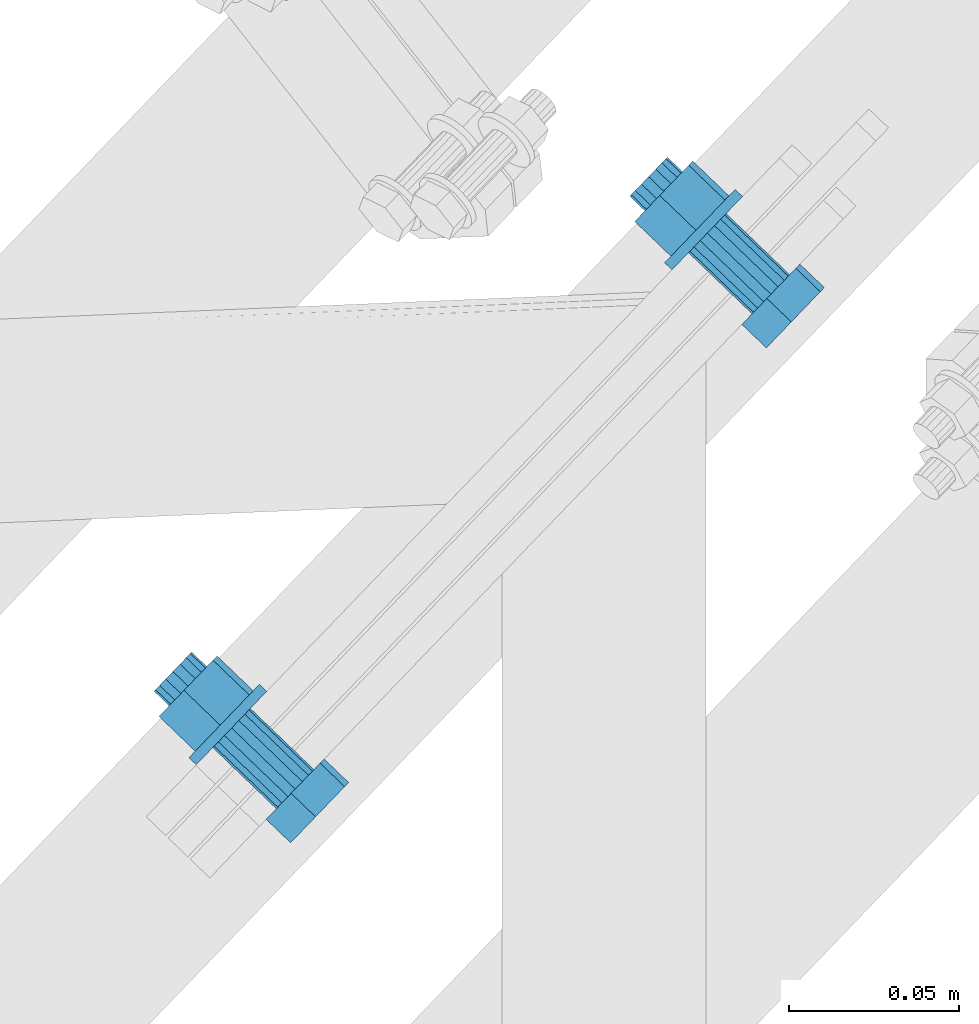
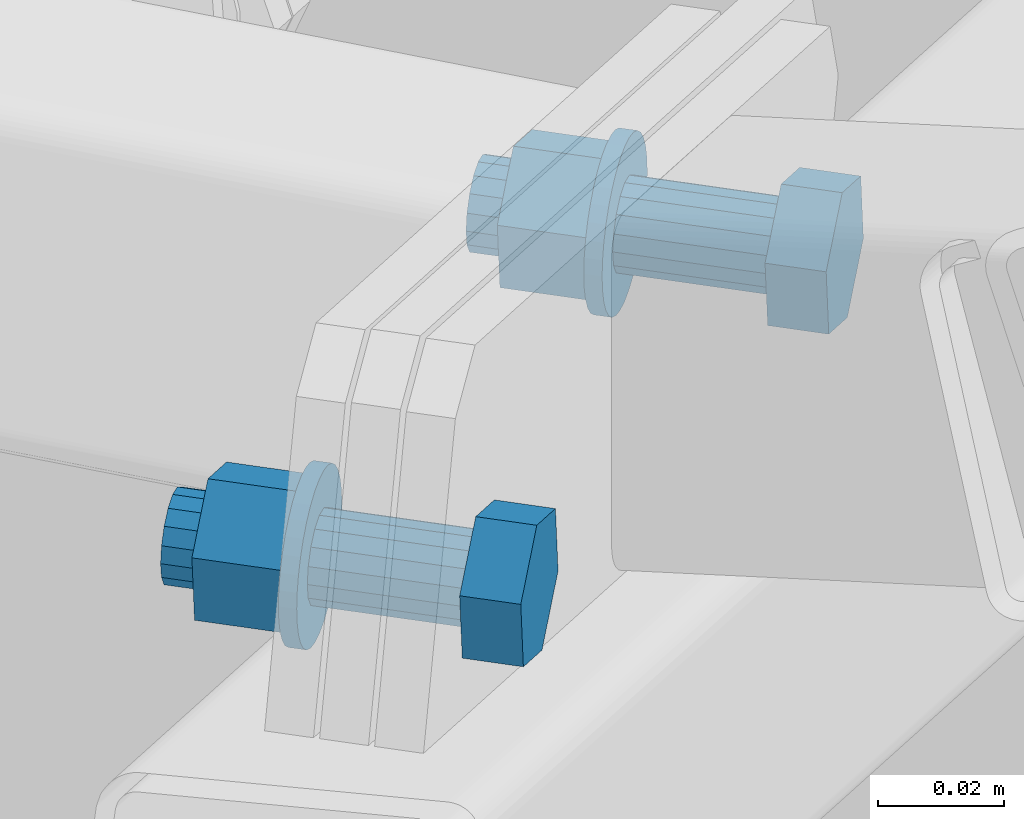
# One storey, part 193 of 288: 2 mechanical fasteners.
"""IFC2X3 building model written with IfcOpenShell, lengths in millimetres."""

from ifc_helpers import new_model, entity, si_unit, converted_unit, origin_with_axes, place, context, project, spatial, faceted_brep, element, save


model = new_model("IFC2X3")

# Units and contexts
model_context = context("Model", 3, precision=1e-09, world=origin_with_axes())
ifc_project = project(units=[si_unit("LENGTHUNIT", "METRE", prefix="MILLI"), si_unit("AREAUNIT", "SQUARE_METRE"), si_unit("VOLUMEUNIT", "CUBIC_METRE"), converted_unit("PLANEANGLEUNIT", "DEGREE", entity("IfcPlaneAngleMeasure", 0.01745329), si_unit("PLANEANGLEUNIT", "RADIAN"), dimensions=[0, 0, 0, 0, 0, 0, 0])], contexts=[model_context])

# Site, building, storey
site_placement = place(None, origin_with_axes())
site = spatial("IfcSite", under=ifc_project, at=site_placement, Name="Remont ?wietlik?w nad MC w NCPP w Opolu", CompositionType="ELEMENT")
building_placement = place(site_placement, origin_with_axes())
building = spatial("IfcBuilding", under=site, at=building_placement, Name="Konstrukcja 1", CompositionType="ELEMENT")
storey_placement = place(building_placement, origin_with_axes())
storey = spatial("IfcBuildingStorey", under=building, at=storey_placement, Name="Default Storey", CompositionType="ELEMENT", Elevation=0.0)

# Mechanical fasteners
mechanical_fastener_1_placement = place(None, origin_with_axes())
element("IfcMechanicalFastener", 1, at=mechanical_fastener_1_placement, inside=storey, ObjectType="-", NominalDiameter=16.0, NominalLength=50.0, context=model_context, shape_type="Brep", body=[
    faceted_brep([(978.169941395, 998.730536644, 632.531466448), (985.379317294, 991.800536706, 632.531466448), (986.566375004, 993.035449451, 619.266606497), (979.356999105, 999.965449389, 619.266606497), (979.198923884, 985.370986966, 611.150739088), (971.989547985, 992.300986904, 611.150739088), (970.644415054, 976.471611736, 616.299731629), (963.435039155, 983.401611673, 616.299731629), (969.457357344, 975.236698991, 629.564591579), (962.247981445, 982.166698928, 629.564591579), (976.824808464, 982.901161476, 637.680458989), (969.615432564, 989.831161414, 637.680458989)], [[[0, 1, 2, 3]], [[3, 2, 4, 5]], [[5, 4, 6, 7]], [[7, 6, 8, 9]], [[9, 8, 10, 11]], [[11, 10, 1, 0]], [[4, 2, 1, 10, 8, 6]], [[0, 3, 5, 7, 9, 11]]]),
    faceted_brep([(968.668208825, 988.845751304, 617.032171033), (949.923831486, 1006.863751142, 617.032171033), (952.044376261, 1009.069783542, 616.415623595), (970.7887536, 991.051783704, 616.415623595), (954.167012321, 1011.277991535, 617.016999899), (972.91138966, 993.259991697, 617.016999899), (955.968587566, 1013.15219547, 618.744745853), (974.712964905, 995.134195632, 618.744745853), (957.174828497, 1014.407064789, 621.335827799), (975.919205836, 996.389064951, 621.335827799), (957.602095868, 1014.851557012, 624.395776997), (976.346473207, 996.833557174, 624.395776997), (957.185342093, 1014.418002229, 627.458743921), (975.929719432, 996.400002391, 627.458743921), (955.988014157, 1013.172405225, 630.058419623), (974.732391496, 995.154405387, 630.058419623), (954.192394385, 1011.304396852, 631.799027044), (972.936771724, 993.286397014, 631.799027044), (952.07184961, 1009.098364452, 632.415574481), (970.816226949, 991.080364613, 632.415574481), (949.94921355, 1006.890156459, 631.814198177), (968.693590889, 988.872156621, 631.814198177), (948.147638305, 1005.015952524, 630.086452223), (966.892015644, 986.997952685, 630.086452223), (946.941397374, 1003.761083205, 627.495370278), (965.685774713, 985.743083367, 627.495370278), (946.514130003, 1003.316590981, 624.435421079), (965.258507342, 985.298591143, 624.435421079), (946.930883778, 1003.750145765, 621.372454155), (965.675261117, 985.732145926, 621.372454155), (948.128211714, 1004.995742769, 618.772778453), (966.872589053, 986.977742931, 618.772778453)], [[[0, 1, 2, 3]], [[3, 2, 4, 5]], [[5, 4, 6, 7]], [[7, 6, 8, 9]], [[9, 8, 10, 11]], [[11, 10, 12, 13]], [[13, 12, 14, 15]], [[15, 14, 16, 17]], [[17, 16, 18, 19]], [[19, 18, 20, 21]], [[21, 20, 22, 23]], [[23, 22, 24, 25]], [[25, 24, 26, 27]], [[27, 26, 28, 29]], [[29, 28, 30, 31]], [[31, 30, 1, 0]], [[0, 3, 5, 7, 9, 11, 13, 15, 17, 19, 21, 23, 25, 27, 29, 31]], [[1, 30, 28, 26, 24, 22, 20, 18, 16, 14, 12, 10, 8, 6, 4, 2]]]),
    faceted_brep([(948.056335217, 1004.920968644, 610.571671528), (945.893522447, 1006.999968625, 610.571671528), (947.842081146, 1009.027081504, 609.711115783), (950.004893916, 1006.948081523, 609.711115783), (949.869543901, 1011.136279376, 609.415645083), (952.032356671, 1009.057279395, 609.415645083), (951.897996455, 1013.246506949, 609.696614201), (954.060809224, 1011.167506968, 609.696614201), (953.849486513, 1015.276669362, 610.543225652), (956.012299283, 1013.197669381, 610.543225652), (955.649019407, 1017.148748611, 611.922944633), (957.811832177, 1015.06974863, 611.922944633), (957.227440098, 1018.790801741, 613.782749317), (959.390252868, 1016.711801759, 613.782749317), (958.524090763, 1020.13972557, 616.051168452), (960.686903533, 1018.060725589, 616.051168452), (959.489141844, 1021.143681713, 618.641027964), (961.651954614, 1019.064681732, 618.641027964), (960.08550697, 1021.764088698, 621.452801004), (962.24831974, 1019.685088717, 621.452801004), (960.290268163, 1021.977104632, 624.378432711), (962.453080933, 1019.898104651, 624.378432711), (960.095556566, 1021.774543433, 627.305492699), (962.258369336, 1019.695543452, 627.305492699), (959.508854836, 1021.164189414, 630.121495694), (961.671667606, 1019.085189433, 630.121495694), (958.552709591, 1020.169498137, 632.718224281), (960.71552236, 1018.090498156, 632.718224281), (957.263864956, 1018.828695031, 634.995887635), (959.426677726, 1016.749695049, 634.995887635), (955.69185051, 1017.193306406, 636.866956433), (957.85466328, 1015.114306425, 636.866956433), (953.897077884, 1015.326179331, 638.259526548), (956.059890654, 1013.24717935, 638.259526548), (951.948519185, 1013.299066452, 639.120082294), (954.111331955, 1011.220066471, 639.120082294), (949.92105643, 1011.189868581, 639.415552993), (952.0838692, 1009.110868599, 639.415552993), (947.892603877, 1009.079641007, 639.134583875), (950.055416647, 1007.000641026, 639.134583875), (945.941113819, 1007.049478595, 638.287972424), (948.103926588, 1004.970478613, 638.287972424), (944.141580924, 1005.177399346, 636.908253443), (946.304393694, 1003.098399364, 636.908253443), (942.563160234, 1003.535346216, 635.048448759), (944.725973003, 1001.456346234, 635.048448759), (941.266509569, 1002.186422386, 632.780029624), (943.429322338, 1000.107422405, 632.780029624), (940.301458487, 1001.182466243, 630.190170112), (942.464271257, 999.103466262, 630.190170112), (939.705093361, 1000.562059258, 627.378397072), (941.867906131, 998.483059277, 627.378397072), (939.500332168, 1000.349043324, 624.452765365), (941.663144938, 998.270043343, 624.452765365), (939.695043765, 1000.551604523, 621.525705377), (941.857856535, 998.472604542, 621.525705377), (940.281745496, 1001.161958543, 618.709702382), (942.444558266, 999.082958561, 618.709702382), (941.237890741, 1002.156649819, 616.112973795), (943.400703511, 1000.077649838, 616.112973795), (942.526735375, 1003.497452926, 613.835310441), (944.689548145, 1001.418452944, 613.835310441), (944.098749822, 1005.13284155, 611.964241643), (946.261562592, 1003.053841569, 611.964241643)], [[[0, 1, 2, 3]], [[3, 2, 4, 5]], [[5, 4, 6, 7]], [[7, 6, 8, 9]], [[9, 8, 10, 11]], [[11, 10, 12, 13]], [[13, 12, 14, 15]], [[15, 14, 16, 17]], [[17, 16, 18, 19]], [[19, 18, 20, 21]], [[21, 20, 22, 23]], [[23, 22, 24, 25]], [[25, 24, 26, 27]], [[27, 26, 28, 29]], [[29, 28, 30, 31]], [[31, 30, 32, 33]], [[33, 32, 34, 35]], [[35, 34, 36, 37]], [[37, 36, 38, 39]], [[39, 38, 40, 41]], [[41, 40, 42, 43]], [[43, 42, 44, 45]], [[45, 44, 46, 47]], [[47, 46, 48, 49]], [[49, 48, 50, 51]], [[51, 50, 52, 53]], [[53, 52, 54, 55]], [[55, 54, 56, 57]], [[57, 56, 58, 59]], [[59, 58, 60, 61]], [[61, 60, 62, 63]], [[63, 62, 1, 0]], [[0, 3, 5, 7, 9, 11, 13, 15, 17, 19, 21, 23, 25, 27, 29, 31, 33, 35, 37, 39, 41, 43, 45, 47, 49, 51, 53, 55, 57, 59, 61, 63]], [[1, 62, 60, 58, 56, 54, 52, 50, 48, 46, 44, 42, 40, 38, 36, 34, 32, 30, 28, 26, 24, 22, 20, 18, 16, 14, 12, 10, 8, 6, 4, 2]]]),
    faceted_brep([(946.592874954, 1029.083936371, 632.531466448), (957.262751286, 1018.827536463, 632.531466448), (958.449808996, 1020.062449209, 619.266606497), (947.779932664, 1030.318849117, 619.266606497), (951.082357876, 1012.397986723, 611.150739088), (940.412481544, 1022.654386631, 611.150739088), (942.527849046, 1003.498611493, 616.299731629), (931.857972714, 1013.755011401, 616.299731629), (941.340791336, 1002.263698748, 629.564591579), (930.670915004, 1012.520098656, 629.564591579), (948.708242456, 1009.928161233, 637.680458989), (938.038366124, 1020.184561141, 637.680458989)], [[[0, 1, 2, 3]], [[3, 2, 4, 5]], [[5, 4, 6, 7]], [[7, 6, 8, 9]], [[9, 8, 10, 11]], [[11, 10, 1, 0]], [[4, 2, 1, 10, 8, 6]], [[0, 3, 5, 7, 9, 11]]]),
    faceted_brep([(937.091142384, 1019.199151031, 617.032171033), (932.621329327, 1023.495750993, 617.032171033), (934.741874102, 1025.701783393, 616.415623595), (939.21168716, 1021.405183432, 616.415623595), (936.864510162, 1027.909991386, 617.016999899), (941.334323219, 1023.613391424, 617.016999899), (938.666085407, 1029.784195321, 618.744745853), (943.135898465, 1025.48759536, 618.744745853), (939.872326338, 1031.03906464, 621.335827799), (944.342139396, 1026.742464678, 621.335827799), (940.299593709, 1031.483556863, 624.395776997), (944.769406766, 1027.186956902, 624.395776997), (939.882839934, 1031.05000208, 627.458743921), (944.352652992, 1026.753402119, 627.458743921), (938.685511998, 1029.804405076, 630.058419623), (943.155325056, 1025.507805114, 630.058419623), (936.889892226, 1027.936396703, 631.799027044), (941.359705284, 1023.639796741, 631.799027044), (934.769347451, 1025.730364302, 632.415574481), (939.239160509, 1021.433764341, 632.415574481), (932.646711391, 1023.52215631, 631.814198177), (937.116524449, 1019.225556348, 631.814198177), (930.845136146, 1021.647952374, 630.086452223), (935.314949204, 1017.351352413, 630.086452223), (929.638895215, 1020.393083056, 627.495370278), (934.108708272, 1016.096483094, 627.495370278), (929.211627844, 1019.948590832, 624.435421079), (933.681440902, 1015.651990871, 624.435421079), (929.628381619, 1020.382145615, 621.372454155), (934.098194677, 1016.085545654, 621.372454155), (930.825709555, 1021.62774262, 618.772778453), (935.295522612, 1017.331142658, 618.772778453)], [[[0, 1, 2, 3]], [[3, 2, 4, 5]], [[5, 4, 6, 7]], [[7, 6, 8, 9]], [[9, 8, 10, 11]], [[11, 10, 12, 13]], [[13, 12, 14, 15]], [[15, 14, 16, 17]], [[17, 16, 18, 19]], [[19, 18, 20, 21]], [[21, 20, 22, 23]], [[23, 22, 24, 25]], [[25, 24, 26, 27]], [[27, 26, 28, 29]], [[29, 28, 30, 31]], [[31, 30, 1, 0]], [[0, 3, 5, 7, 9, 11, 13, 15, 17, 19, 21, 23, 25, 27, 29, 31]], [[1, 30, 28, 26, 24, 22, 20, 18, 16, 14, 12, 10, 8, 6, 4, 2]]]),
])
mechanical_fastener_2_placement = place(None, origin_with_axes())
element("IfcMechanicalFastener", 2, at=mechanical_fastener_2_placement, inside=storey, ObjectType="-", NominalDiameter=16.0, NominalLength=50.0, context=model_context, shape_type="Brep", body=[
    faceted_brep([(837.94113146, 852.848543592, 705.605582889), (845.15050736, 845.918543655, 705.605582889), (846.33756507, 847.1534564, 692.340722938), (839.12818917, 854.083456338, 692.340722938), (838.97011395, 839.488993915, 684.224855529), (831.760738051, 846.418993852, 684.224855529), (830.41560512, 830.589618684, 689.37384807), (823.206229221, 837.519618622, 689.37384807), (829.22854741, 829.354705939, 702.63870802), (822.01917151, 836.284705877, 702.63870802), (836.59599853, 837.019168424, 710.75457543), (829.38662263, 843.949168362, 710.75457543)], [[[0, 1, 2, 3]], [[3, 2, 4, 5]], [[5, 4, 6, 7]], [[7, 6, 8, 9]], [[9, 8, 10, 11]], [[11, 10, 1, 0]], [[4, 2, 1, 10, 8, 6]], [[0, 3, 5, 7, 9, 11]]]),
    faceted_brep([(828.439398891, 842.963758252, 690.106287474), (809.695021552, 860.98175809, 690.106287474), (811.815566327, 863.187790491, 689.489740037), (830.559943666, 845.169790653, 689.489740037), (813.938202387, 865.395998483, 690.09111634), (832.682579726, 847.377998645, 690.09111634), (815.739777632, 867.270202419, 691.818862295), (834.484154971, 849.252202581, 691.818862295), (816.946018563, 868.525071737, 694.40994424), (835.690395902, 850.507071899, 694.40994424), (817.373285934, 868.969563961, 697.469893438), (836.117663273, 850.951564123, 697.469893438), (816.956532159, 868.536009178, 700.532860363), (835.700909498, 850.51800934, 700.532860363), (815.759204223, 867.290412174, 703.132536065), (834.503581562, 849.272412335, 703.132536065), (813.963584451, 865.4224038, 704.873143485), (832.70796179, 847.404403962, 704.873143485), (811.843039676, 863.2163714, 705.489690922), (830.587417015, 845.198371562, 705.489690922), (809.720403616, 861.008163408, 704.888314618), (828.464780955, 842.990163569, 704.888314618), (807.918828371, 859.133959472, 703.160568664), (826.66320571, 841.115959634, 703.160568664), (806.71258744, 857.879090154, 700.569486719), (825.456964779, 839.861090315, 700.569486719), (806.285320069, 857.43459793, 697.509537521), (825.029697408, 839.416598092, 697.509537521), (806.702073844, 857.868152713, 694.446570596), (825.446451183, 839.850152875, 694.446570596), (807.89940178, 859.113749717, 691.846894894), (826.643779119, 841.095749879, 691.846894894)], [[[0, 1, 2, 3]], [[3, 2, 4, 5]], [[5, 4, 6, 7]], [[7, 6, 8, 9]], [[9, 8, 10, 11]], [[11, 10, 12, 13]], [[13, 12, 14, 15]], [[15, 14, 16, 17]], [[17, 16, 18, 19]], [[19, 18, 20, 21]], [[21, 20, 22, 23]], [[23, 22, 24, 25]], [[25, 24, 26, 27]], [[27, 26, 28, 29]], [[29, 28, 30, 31]], [[31, 30, 1, 0]], [[0, 3, 5, 7, 9, 11, 13, 15, 17, 19, 21, 23, 25, 27, 29, 31]], [[1, 30, 28, 26, 24, 22, 20, 18, 16, 14, 12, 10, 8, 6, 4, 2]]]),
    faceted_brep([(807.827525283, 859.038975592, 683.645787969), (805.664712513, 861.117975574, 683.645787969), (807.613271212, 863.145088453, 682.785232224), (809.776083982, 861.066088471, 682.785232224), (809.640733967, 865.254286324, 682.489761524), (811.803546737, 863.175286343, 682.489761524), (811.66918652, 867.364513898, 682.770730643), (813.83199929, 865.285513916, 682.770730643), (813.620676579, 869.394676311, 683.617342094), (815.783489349, 867.315676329, 683.617342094), (815.420209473, 871.26675556, 684.997061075), (817.583022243, 869.187755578, 684.997061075), (816.998630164, 872.908808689, 686.856865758), (819.161442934, 870.829808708, 686.856865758), (818.295280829, 874.257732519, 689.125284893), (820.458093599, 872.178732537, 689.125284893), (819.26033191, 875.261688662, 691.715144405), (821.42314468, 873.18268868, 691.715144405), (819.856697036, 875.882095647, 694.526917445), (822.019509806, 873.803095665, 694.526917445), (820.061458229, 876.095111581, 697.452549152), (822.224270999, 874.0161116, 697.452549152), (819.866746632, 875.892550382, 700.37960914), (822.029559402, 873.813550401, 700.37960914), (819.280044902, 875.282196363, 703.195612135), (821.442857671, 873.203196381, 703.195612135), (818.323899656, 874.287505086, 705.792340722), (820.486712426, 872.208505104, 705.792340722), (817.035055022, 872.946701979, 708.070004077), (819.197867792, 870.867701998, 708.070004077), (815.463040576, 871.311313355, 709.941072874), (817.625853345, 869.232313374, 709.941072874), (813.66826795, 869.44418628, 711.33364299), (815.83108072, 867.365186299, 711.33364299), (811.719709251, 867.417073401, 712.194198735), (813.882522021, 865.33807342, 712.194198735), (809.692246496, 865.307875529, 712.489669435), (811.855059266, 863.228875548, 712.489669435), (807.663793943, 863.197647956, 712.208700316), (809.826606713, 861.118647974, 712.208700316), (805.712303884, 861.167485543, 711.362088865), (807.875116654, 859.088485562, 711.362088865), (803.91277099, 859.295406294, 709.982369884), (806.07558376, 857.216406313, 709.982369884), (802.334350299, 857.653353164, 708.122565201), (804.497163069, 855.574353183, 708.122565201), (801.037699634, 856.304429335, 705.854146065), (803.200512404, 854.225429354, 705.854146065), (800.072648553, 855.300473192, 703.264286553), (802.235461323, 853.221473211, 703.264286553), (799.476283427, 854.680066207, 700.452513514), (801.639096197, 852.601066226, 700.452513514), (799.271522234, 854.467050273, 697.526881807), (801.434335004, 852.388050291, 697.526881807), (799.466233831, 854.669611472, 694.599821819), (801.629046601, 852.59061149, 694.599821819), (800.052935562, 855.279965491, 691.783818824), (802.215748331, 853.20096551, 691.783818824), (801.009080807, 856.274656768, 689.187090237), (803.171893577, 854.195656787, 689.187090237), (802.297925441, 857.615459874, 686.909426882), (804.460738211, 855.536459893, 686.909426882), (803.869939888, 859.250848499, 685.038358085), (806.032752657, 857.171848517, 685.038358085)], [[[0, 1, 2, 3]], [[3, 2, 4, 5]], [[5, 4, 6, 7]], [[7, 6, 8, 9]], [[9, 8, 10, 11]], [[11, 10, 12, 13]], [[13, 12, 14, 15]], [[15, 14, 16, 17]], [[17, 16, 18, 19]], [[19, 18, 20, 21]], [[21, 20, 22, 23]], [[23, 22, 24, 25]], [[25, 24, 26, 27]], [[27, 26, 28, 29]], [[29, 28, 30, 31]], [[31, 30, 32, 33]], [[33, 32, 34, 35]], [[35, 34, 36, 37]], [[37, 36, 38, 39]], [[39, 38, 40, 41]], [[41, 40, 42, 43]], [[43, 42, 44, 45]], [[45, 44, 46, 47]], [[47, 46, 48, 49]], [[49, 48, 50, 51]], [[51, 50, 52, 53]], [[53, 52, 54, 55]], [[55, 54, 56, 57]], [[57, 56, 58, 59]], [[59, 58, 60, 61]], [[61, 60, 62, 63]], [[63, 62, 1, 0]], [[0, 3, 5, 7, 9, 11, 13, 15, 17, 19, 21, 23, 25, 27, 29, 31, 33, 35, 37, 39, 41, 43, 45, 47, 49, 51, 53, 55, 57, 59, 61, 63]], [[1, 62, 60, 58, 56, 54, 52, 50, 48, 46, 44, 42, 40, 38, 36, 34, 32, 30, 28, 26, 24, 22, 20, 18, 16, 14, 12, 10, 8, 6, 4, 2]]]),
    faceted_brep([(806.36406502, 883.20194332, 705.605582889), (817.033941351, 872.945543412, 705.605582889), (818.220999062, 874.180456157, 692.340722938), (807.55112273, 884.436856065, 692.340722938), (810.853547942, 866.515993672, 684.224855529), (800.18367161, 876.77239358, 684.224855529), (802.299039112, 857.616618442, 689.37384807), (791.62916278, 867.87301835, 689.37384807), (801.111981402, 856.381705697, 702.63870802), (790.44210507, 866.638105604, 702.63870802), (808.479432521, 864.046168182, 710.75457543), (797.80955619, 874.30256809, 710.75457543)], [[[0, 1, 2, 3]], [[3, 2, 4, 5]], [[5, 4, 6, 7]], [[7, 6, 8, 9]], [[9, 8, 10, 11]], [[11, 10, 1, 0]], [[4, 2, 1, 10, 8, 6]], [[0, 3, 5, 7, 9, 11]]]),
    faceted_brep([(796.86233245, 873.31715798, 690.106287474), (792.392519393, 877.613757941, 690.106287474), (794.513064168, 879.819790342, 689.489740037), (798.982877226, 875.52319038, 689.489740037), (796.635700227, 882.027998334, 690.09111634), (801.105513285, 877.731398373, 690.09111634), (798.437275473, 883.90220227, 691.818862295), (802.907088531, 879.605602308, 691.818862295), (799.643516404, 885.157071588, 694.40994424), (804.113329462, 880.860471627, 694.40994424), (800.070783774, 885.601563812, 697.469893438), (804.540596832, 881.30496385, 697.469893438), (799.65403, 885.168009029, 700.532860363), (804.123843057, 880.871409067, 700.532860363), (798.456702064, 883.922412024, 703.132536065), (802.926515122, 879.625812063, 703.132536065), (796.661082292, 882.054403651, 704.873143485), (801.13089535, 877.75780369, 704.873143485), (794.540537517, 879.848371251, 705.489690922), (799.010350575, 875.551771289, 705.489690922), (792.417901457, 877.640163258, 704.888314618), (796.887714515, 873.343563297, 704.888314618), (790.616326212, 875.765959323, 703.160568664), (795.08613927, 871.469359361, 703.160568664), (789.41008528, 874.511090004, 700.569486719), (793.879898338, 870.214490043, 700.569486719), (788.98281791, 874.066597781, 697.509537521), (793.452630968, 869.769997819, 697.509537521), (789.399571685, 874.500152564, 694.446570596), (793.869384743, 870.203552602, 694.446570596), (790.596899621, 875.745749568, 691.846894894), (795.066712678, 871.449149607, 691.846894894)], [[[0, 1, 2, 3]], [[3, 2, 4, 5]], [[5, 4, 6, 7]], [[7, 6, 8, 9]], [[9, 8, 10, 11]], [[11, 10, 12, 13]], [[13, 12, 14, 15]], [[15, 14, 16, 17]], [[17, 16, 18, 19]], [[19, 18, 20, 21]], [[21, 20, 22, 23]], [[23, 22, 24, 25]], [[25, 24, 26, 27]], [[27, 26, 28, 29]], [[29, 28, 30, 31]], [[31, 30, 1, 0]], [[0, 3, 5, 7, 9, 11, 13, 15, 17, 19, 21, 23, 25, 27, 29, 31]], [[1, 30, 28, 26, 24, 22, 20, 18, 16, 14, 12, 10, 8, 6, 4, 2]]]),
])

save(model, "model.ifc")
